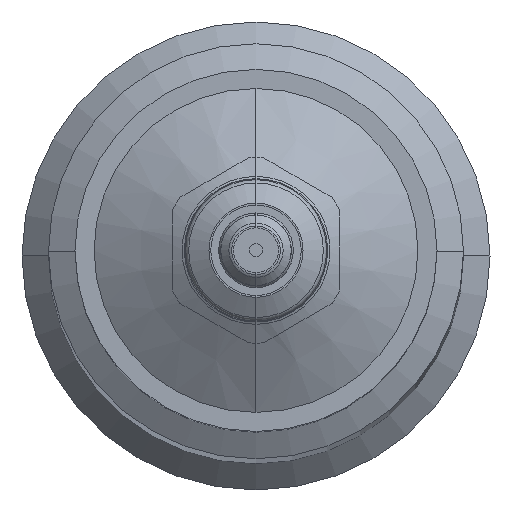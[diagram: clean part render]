
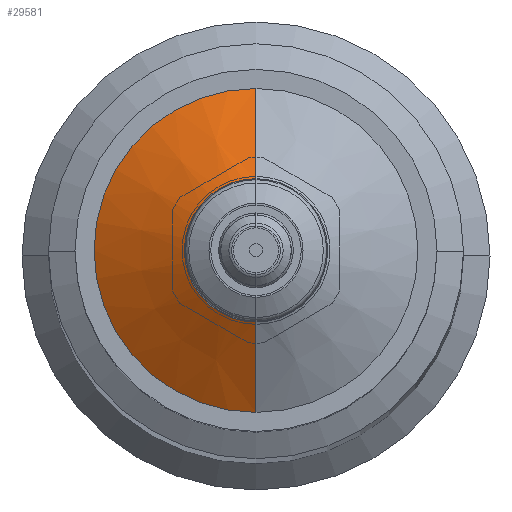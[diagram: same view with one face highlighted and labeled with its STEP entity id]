
A CAD part, top view. The second image highlights one B-rep face of the part: STEP entity #29581.
In plain terms, the highlighted conical face has half-angle 60 degrees and reference radius 41 mm.
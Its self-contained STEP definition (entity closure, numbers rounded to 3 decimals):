
#4442 = CARTESIAN_POINT ( 'NONE',  ( 0., 0., 767.505 ) ) ;
#4443 = DIRECTION ( 'NONE',  ( 0., 0., -1. ) ) ;
#4445 = DIRECTION ( 'NONE',  ( 0., -1., 0. ) ) ;
#6614 = FACE_OUTER_BOUND ( 'NONE', #29432, .T. ) ;
#8840 = CONICAL_SURFACE ( 'NONE', #10718, 41., 1.047 ) ;
#10565 = AXIS2_PLACEMENT_3D ( 'NONE', #31959, #31962, #31964 ) ;
#10566 = AXIS2_PLACEMENT_3D ( 'NONE', #31969, #31972, #31975 ) ;
#10718 = AXIS2_PLACEMENT_3D ( 'NONE', #4442, #4443, #4445 ) ;
#12350 = EDGE_CURVE ( 'NONE', #27345, #27406, #30788, .T. ) ;
#12351 = EDGE_CURVE ( 'NONE', #27406, #27300, #30791, .T. ) ;
#12352 = EDGE_CURVE ( 'NONE', #27408, #27345, #30793, .T. ) ;
#12353 = EDGE_CURVE ( 'NONE', #27408, #27300, #30792, .T. ) ;
#16513 = ORIENTED_EDGE ( 'NONE', *, *, #12350, .F. ) ;
#16515 = ORIENTED_EDGE ( 'NONE', *, *, #12351, .F. ) ;
#16517 = ORIENTED_EDGE ( 'NONE', *, *, #12352, .F. ) ;
#16519 = ORIENTED_EDGE ( 'NONE', *, *, #12353, .T. ) ;
#27300 = VERTEX_POINT ( 'NONE', #32398 ) ;
#27345 = VERTEX_POINT ( 'NONE', #32488 ) ;
#27406 = VERTEX_POINT ( 'NONE', #32610 ) ;
#27408 = VERTEX_POINT ( 'NONE', #32614 ) ;
#29432 = EDGE_LOOP ( 'NONE', ( #16517, #16519, #16515, #16513 ) ) ;
#29581 = ADVANCED_FACE ( 'NONE', ( #6614 ), #8840, .T. ) ;
#30788 = LINE ( 'NONE', #31951, #30790 ) ;
#30790 = VECTOR ( 'NONE', #31954, 1000. ) ;
#30791 = CIRCLE ( 'NONE', #10565, 36.679 ) ;
#30792 = LINE ( 'NONE', #31979, #30794 ) ;
#30793 = CIRCLE ( 'NONE', #10566, 16.241 ) ;
#30794 = VECTOR ( 'NONE', #31982, 1000. ) ;
#31951 = CARTESIAN_POINT ( 'NONE',  ( 0., -41., 767.505 ) ) ;
#31954 = DIRECTION ( 'NONE',  ( 0., -0.866, -0.5 ) ) ;
#31959 = CARTESIAN_POINT ( 'NONE',  ( 0., 0., 770. ) ) ;
#31962 = DIRECTION ( 'NONE',  ( 0., 0., -1. ) ) ;
#31964 = DIRECTION ( 'NONE',  ( 1., 0., 0. ) ) ;
#31969 = CARTESIAN_POINT ( 'NONE',  ( 0., 0., 781.8 ) ) ;
#31972 = DIRECTION ( 'NONE',  ( 0., 0., 1. ) ) ;
#31975 = DIRECTION ( 'NONE',  ( 0., 1., 0. ) ) ;
#31979 = CARTESIAN_POINT ( 'NONE',  ( 0., 41., 767.505 ) ) ;
#31982 = DIRECTION ( 'NONE',  ( 0., 0.866, -0.5 ) ) ;
#32398 = CARTESIAN_POINT ( 'NONE',  ( 0., 36.679, 770. ) ) ;
#32488 = CARTESIAN_POINT ( 'NONE',  ( 0., -16.241, 781.8 ) ) ;
#32610 = CARTESIAN_POINT ( 'NONE',  ( 0., -36.679, 770. ) ) ;
#32614 = CARTESIAN_POINT ( 'NONE',  ( 0., 16.241, 781.8 ) ) ;
